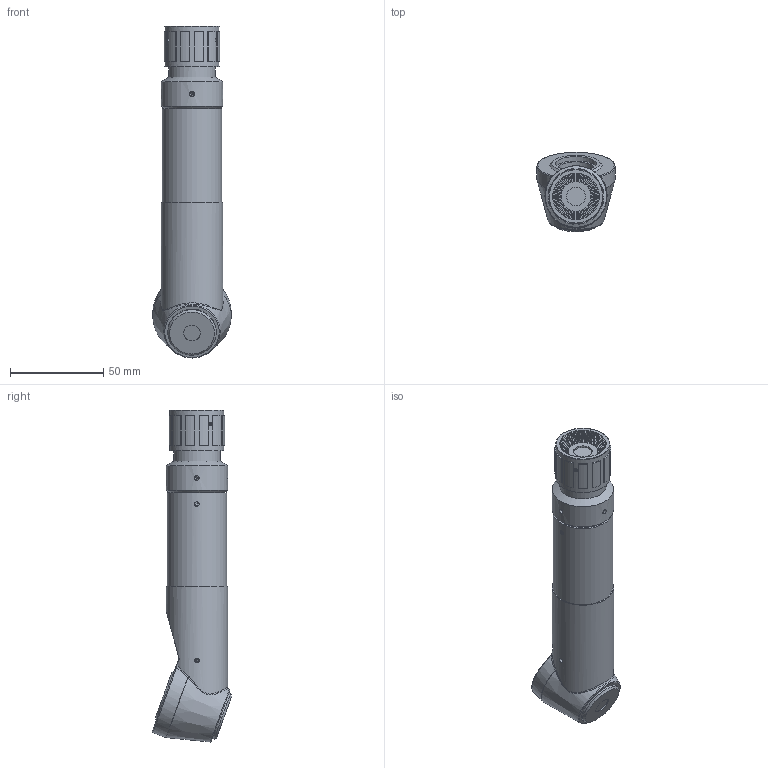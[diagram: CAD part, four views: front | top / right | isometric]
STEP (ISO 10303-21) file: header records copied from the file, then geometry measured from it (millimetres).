
FILE_DESCRIPTION(/* description */ (''),/* implementation_level */ '2;1');
FILE_NAME(/* name */ '\\SERVEUR-09\Entreprise\Bureau-Technique\Produits Web\microscopes\optiques\MA 117SZ-1.stp',/* time_stamp */ '2019-02-14T16:07:44+01:00',/* author */ ('ms'),/* organization */ ('Marcel Aubert'),/* preprocessor_version */ 'ST-DEVELOPER v17.2',/* originating_system */ 'Autodesk Inventor 2019',/* authorisation */ '');
FILE_SCHEMA (('CONFIG_CONTROL_DESIGN'));
Length unit declared in the file: millimetre
Products named in the file (1): Pièce1
Bounding box: 42 x 42.6 x 178.18 mm (x, y, z)
Volume: 81740.3 mm3; surface area: 37255.5 mm2
Topology: 4 solids, 7 shells, 346 faces, 897 edges, 623 vertices
Faces by surface type: plane 192, cylinder 90, cone 45, bspline 13, torus 4, sphere 2
Full cylindrical faces by diameter (mm): 1.567 x2, 1.75 x1, 2.013 x6, 2.459 x12, 3 x4, 9 x1, 10 x3, 15 x1, 16 x1, 17 x2, 18 x5, 19 x2, 19.188 x1, 20 x4, 21 x1, 21.5 x1, 22 x2, 22.4 x2, 23 x1, 24 x2, 24.5 x1, 25 x2, 25.4 x1, 26 x1, 28 x1, 28.1 x2, 29 x1, 30 x1, 32 x1, 33 x2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
Entity records: 12682 total; most frequent: CARTESIAN_POINT 3736, ORIENTED_EDGE 1780, DIRECTION 1761, EDGE_CURVE 890, AXIS2_PLACEMENT_3D 701, VERTEX_POINT 624, EDGE_LOOP 420, LINE 359
